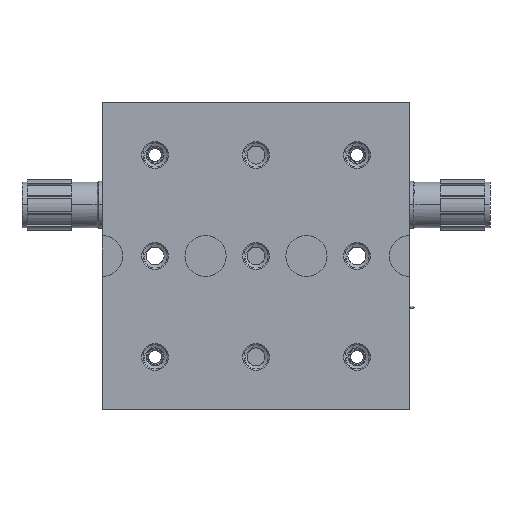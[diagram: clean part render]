
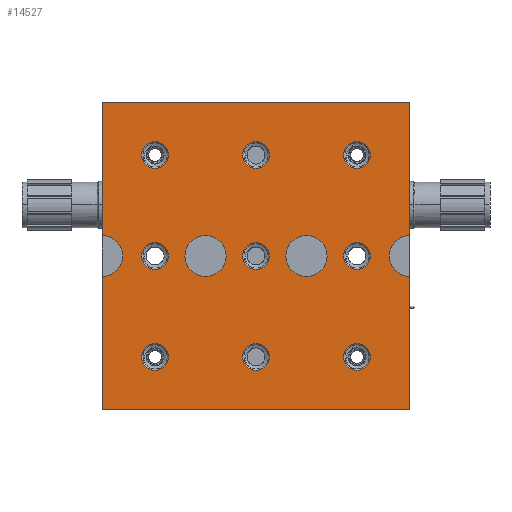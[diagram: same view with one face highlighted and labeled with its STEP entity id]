
A CAD part, front view. The second image highlights one B-rep face of the part: STEP entity #14527.
In plain terms, the highlighted planar face has unit normal (0, -1, 0).
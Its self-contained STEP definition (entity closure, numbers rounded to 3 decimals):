
#1=DIRECTION('',(0.,0.,1.));
#2=VECTOR('',#1,33.);
#3=CARTESIAN_POINT('',(-38.1,0.,5.1));
#4=LINE('',#3,#2);
#5=DIRECTION('',(1.,0.,0.));
#6=VECTOR('',#5,76.2);
#7=CARTESIAN_POINT('',(-38.1,0.,38.1));
#8=LINE('',#7,#6);
#9=DIRECTION('',(0.,0.,-1.));
#10=VECTOR('',#9,33.);
#11=CARTESIAN_POINT('',(38.1,0.,38.1));
#12=LINE('',#11,#10);
#13=DIRECTION('',(0.,0.,-1.));
#14=VECTOR('',#13,33.);
#15=CARTESIAN_POINT('',(38.1,0.,-5.1));
#16=LINE('',#15,#14);
#17=DIRECTION('',(-1.,0.,0.));
#18=VECTOR('',#17,76.2);
#19=CARTESIAN_POINT('',(38.1,0.,-38.1));
#20=LINE('',#19,#18);
#21=DIRECTION('',(0.,0.,1.));
#22=VECTOR('',#21,33.);
#23=CARTESIAN_POINT('',(-38.1,0.,-38.1));
#24=LINE('',#23,#22);
#25=CARTESIAN_POINT('',(-12.5,0.,0.));
#26=DIRECTION('',(0.,1.,0.));
#27=DIRECTION('',(1.,0.,0.));
#28=AXIS2_PLACEMENT_3D('',#25,#26,#27);
#30=CARTESIAN_POINT('',(-12.5,0.,0.));
#31=DIRECTION('',(0.,1.,0.));
#32=DIRECTION('',(-1.,0.,0.));
#33=AXIS2_PLACEMENT_3D('',#30,#31,#32);
#35=CARTESIAN_POINT('',(12.5,0.,0.));
#36=DIRECTION('',(0.,1.,0.));
#37=DIRECTION('',(1.,0.,0.));
#38=AXIS2_PLACEMENT_3D('',#35,#36,#37);
#40=CARTESIAN_POINT('',(12.5,0.,0.));
#41=DIRECTION('',(0.,1.,0.));
#42=DIRECTION('',(-1.,0.,0.));
#43=AXIS2_PLACEMENT_3D('',#40,#41,#42);
#45=CARTESIAN_POINT('',(-25.,0.,-25.));
#46=DIRECTION('',(0.,1.,0.));
#47=DIRECTION('',(-1.,0.,0.));
#48=AXIS2_PLACEMENT_3D('',#45,#46,#47);
#50=CARTESIAN_POINT('',(-25.,0.,-25.));
#51=DIRECTION('',(0.,1.,0.));
#52=DIRECTION('',(1.,0.,0.));
#53=AXIS2_PLACEMENT_3D('',#50,#51,#52);
#55=CARTESIAN_POINT('',(-25.,0.,0.));
#56=DIRECTION('',(0.,1.,0.));
#57=DIRECTION('',(1.,0.,0.));
#58=AXIS2_PLACEMENT_3D('',#55,#56,#57);
#60=CARTESIAN_POINT('',(-25.,0.,0.));
#61=DIRECTION('',(0.,1.,0.));
#62=DIRECTION('',(-1.,0.,0.));
#63=AXIS2_PLACEMENT_3D('',#60,#61,#62);
#65=CARTESIAN_POINT('',(-25.,0.,25.));
#66=DIRECTION('',(0.,1.,0.));
#67=DIRECTION('',(1.,0.,0.));
#68=AXIS2_PLACEMENT_3D('',#65,#66,#67);
#70=CARTESIAN_POINT('',(-25.,0.,25.));
#71=DIRECTION('',(0.,1.,0.));
#72=DIRECTION('',(-1.,0.,0.));
#73=AXIS2_PLACEMENT_3D('',#70,#71,#72);
#75=CARTESIAN_POINT('',(0.,0.,25.));
#76=DIRECTION('',(0.,1.,0.));
#77=DIRECTION('',(1.,0.,0.));
#78=AXIS2_PLACEMENT_3D('',#75,#76,#77);
#80=CARTESIAN_POINT('',(0.,0.,25.));
#81=DIRECTION('',(0.,1.,0.));
#82=DIRECTION('',(-1.,0.,0.));
#83=AXIS2_PLACEMENT_3D('',#80,#81,#82);
#85=CARTESIAN_POINT('',(25.,0.,25.));
#86=DIRECTION('',(0.,1.,0.));
#87=DIRECTION('',(1.,0.,0.));
#88=AXIS2_PLACEMENT_3D('',#85,#86,#87);
#90=CARTESIAN_POINT('',(25.,0.,25.));
#91=DIRECTION('',(0.,1.,0.));
#92=DIRECTION('',(-1.,0.,0.));
#93=AXIS2_PLACEMENT_3D('',#90,#91,#92);
#95=CARTESIAN_POINT('',(25.,0.,0.));
#96=DIRECTION('',(0.,1.,0.));
#97=DIRECTION('',(1.,0.,0.));
#98=AXIS2_PLACEMENT_3D('',#95,#96,#97);
#100=CARTESIAN_POINT('',(25.,0.,0.));
#101=DIRECTION('',(0.,1.,0.));
#102=DIRECTION('',(-1.,0.,0.));
#103=AXIS2_PLACEMENT_3D('',#100,#101,#102);
#105=CARTESIAN_POINT('',(25.,0.,-25.));
#106=DIRECTION('',(0.,1.,0.));
#107=DIRECTION('',(1.,0.,0.));
#108=AXIS2_PLACEMENT_3D('',#105,#106,#107);
#110=CARTESIAN_POINT('',(25.,0.,-25.));
#111=DIRECTION('',(0.,1.,0.));
#112=DIRECTION('',(-1.,0.,0.));
#113=AXIS2_PLACEMENT_3D('',#110,#111,#112);
#115=CARTESIAN_POINT('',(0.,0.,-25.));
#116=DIRECTION('',(0.,1.,0.));
#117=DIRECTION('',(1.,0.,0.));
#118=AXIS2_PLACEMENT_3D('',#115,#116,#117);
#120=CARTESIAN_POINT('',(0.,0.,-25.));
#121=DIRECTION('',(0.,1.,0.));
#122=DIRECTION('',(-1.,0.,0.));
#123=AXIS2_PLACEMENT_3D('',#120,#121,#122);
#125=CARTESIAN_POINT('',(0.,0.,0.));
#126=DIRECTION('',(0.,1.,0.));
#127=DIRECTION('',(1.,0.,0.));
#128=AXIS2_PLACEMENT_3D('',#125,#126,#127);
#130=CARTESIAN_POINT('',(0.,0.,0.));
#131=DIRECTION('',(0.,1.,0.));
#132=DIRECTION('',(-1.,0.,0.));
#133=AXIS2_PLACEMENT_3D('',#130,#131,#132);
#140=CARTESIAN_POINT('',(-38.1,0.,0.));
#141=DIRECTION('',(0.,1.,0.));
#142=DIRECTION('',(0.,0.,1.));
#143=AXIS2_PLACEMENT_3D('',#140,#141,#142);
#4964=CARTESIAN_POINT('',(38.1,0.,0.));
#4965=DIRECTION('',(0.,1.,0.));
#4966=DIRECTION('',(0.,0.,-1.));
#4967=AXIS2_PLACEMENT_3D('',#4964,#4965,#4966);
#13282=CARTESIAN_POINT('',(-38.1,0.,38.1));
#13283=CARTESIAN_POINT('',(38.1,0.,38.1));
#13284=VERTEX_POINT('',#13282);
#13285=VERTEX_POINT('',#13283);
#13286=CARTESIAN_POINT('',(38.1,0.,-38.1));
#13287=CARTESIAN_POINT('',(-38.1,0.,-38.1));
#13288=VERTEX_POINT('',#13286);
#13289=VERTEX_POINT('',#13287);
#13366=CARTESIAN_POINT('',(-38.1,0.,-5.1));
#13367=VERTEX_POINT('',#13366);
#13368=CARTESIAN_POINT('',(-38.1,0.,5.1));
#13369=VERTEX_POINT('',#13368);
#13370=CARTESIAN_POINT('',(38.1,0.,5.1));
#13371=VERTEX_POINT('',#13370);
#13372=CARTESIAN_POINT('',(38.1,0.,-5.1));
#13373=VERTEX_POINT('',#13372);
#13374=CARTESIAN_POINT('',(-7.4,0.,0.));
#13375=CARTESIAN_POINT('',(-17.6,0.,0.));
#13376=VERTEX_POINT('',#13374);
#13377=VERTEX_POINT('',#13375);
#13378=CARTESIAN_POINT('',(17.6,0.,0.));
#13379=CARTESIAN_POINT('',(7.4,0.,0.));
#13380=VERTEX_POINT('',#13378);
#13381=VERTEX_POINT('',#13379);
#13985=CARTESIAN_POINT('',(-28.3,0.,-25.));
#13986=CARTESIAN_POINT('',(-21.7,0.,-25.));
#13987=VERTEX_POINT('',#13985);
#13988=VERTEX_POINT('',#13986);
#13993=CARTESIAN_POINT('',(-21.7,0.,0.));
#13994=CARTESIAN_POINT('',(-28.3,0.,0.));
#13995=VERTEX_POINT('',#13993);
#13996=VERTEX_POINT('',#13994);
#14001=CARTESIAN_POINT('',(-21.7,0.,25.));
#14002=CARTESIAN_POINT('',(-28.3,0.,25.));
#14003=VERTEX_POINT('',#14001);
#14004=VERTEX_POINT('',#14002);
#14009=CARTESIAN_POINT('',(3.3,0.,25.));
#14010=CARTESIAN_POINT('',(-3.3,0.,25.));
#14011=VERTEX_POINT('',#14009);
#14012=VERTEX_POINT('',#14010);
#14017=CARTESIAN_POINT('',(28.3,0.,25.));
#14018=CARTESIAN_POINT('',(21.7,0.,25.));
#14019=VERTEX_POINT('',#14017);
#14020=VERTEX_POINT('',#14018);
#14025=CARTESIAN_POINT('',(28.3,0.,0.));
#14026=CARTESIAN_POINT('',(21.7,0.,0.));
#14027=VERTEX_POINT('',#14025);
#14028=VERTEX_POINT('',#14026);
#14033=CARTESIAN_POINT('',(28.3,0.,-25.));
#14034=CARTESIAN_POINT('',(21.7,0.,-25.));
#14035=VERTEX_POINT('',#14033);
#14036=VERTEX_POINT('',#14034);
#14041=CARTESIAN_POINT('',(3.3,0.,-25.));
#14042=CARTESIAN_POINT('',(-3.3,0.,-25.));
#14043=VERTEX_POINT('',#14041);
#14044=VERTEX_POINT('',#14042);
#14049=CARTESIAN_POINT('',(3.3,0.,0.));
#14050=CARTESIAN_POINT('',(-3.3,0.,0.));
#14051=VERTEX_POINT('',#14049);
#14052=VERTEX_POINT('',#14050);
#14438=CARTESIAN_POINT('',(0.,0.,0.));
#14439=DIRECTION('',(0.,1.,0.));
#14440=DIRECTION('',(1.,0.,0.));
#14441=AXIS2_PLACEMENT_3D('',#14438,#14439,#14440);
#14442=PLANE('',#14441);
#14444=ORIENTED_EDGE('',*,*,#14443,.F.);
#14446=ORIENTED_EDGE('',*,*,#14445,.T.);
#14448=ORIENTED_EDGE('',*,*,#14447,.T.);
#14450=ORIENTED_EDGE('',*,*,#14449,.T.);
#14452=ORIENTED_EDGE('',*,*,#14451,.F.);
#14454=ORIENTED_EDGE('',*,*,#14453,.T.);
#14456=ORIENTED_EDGE('',*,*,#14455,.T.);
#14458=ORIENTED_EDGE('',*,*,#14457,.T.);
#14459=EDGE_LOOP('',(#14444,#14446,#14448,#14450,#14452,#14454,#14456,#14458));
#14460=FACE_OUTER_BOUND('',#14459,.F.);
#14462=ORIENTED_EDGE('',*,*,#14461,.F.);
#14464=ORIENTED_EDGE('',*,*,#14463,.F.);
#14465=EDGE_LOOP('',(#14462,#14464));
#14466=FACE_BOUND('',#14465,.F.);
#14468=ORIENTED_EDGE('',*,*,#14467,.F.);
#14470=ORIENTED_EDGE('',*,*,#14469,.F.);
#14471=EDGE_LOOP('',(#14468,#14470));
#14472=FACE_BOUND('',#14471,.F.);
#14474=ORIENTED_EDGE('',*,*,#14473,.F.);
#14476=ORIENTED_EDGE('',*,*,#14475,.F.);
#14477=EDGE_LOOP('',(#14474,#14476));
#14478=FACE_BOUND('',#14477,.F.);
#14480=ORIENTED_EDGE('',*,*,#14479,.F.);
#14482=ORIENTED_EDGE('',*,*,#14481,.F.);
#14483=EDGE_LOOP('',(#14480,#14482));
#14484=FACE_BOUND('',#14483,.F.);
#14486=ORIENTED_EDGE('',*,*,#14485,.F.);
#14488=ORIENTED_EDGE('',*,*,#14487,.F.);
#14489=EDGE_LOOP('',(#14486,#14488));
#14490=FACE_BOUND('',#14489,.F.);
#14492=ORIENTED_EDGE('',*,*,#14491,.F.);
#14494=ORIENTED_EDGE('',*,*,#14493,.F.);
#14495=EDGE_LOOP('',(#14492,#14494));
#14496=FACE_BOUND('',#14495,.F.);
#14498=ORIENTED_EDGE('',*,*,#14497,.F.);
#14500=ORIENTED_EDGE('',*,*,#14499,.F.);
#14501=EDGE_LOOP('',(#14498,#14500));
#14502=FACE_BOUND('',#14501,.F.);
#14504=ORIENTED_EDGE('',*,*,#14503,.F.);
#14506=ORIENTED_EDGE('',*,*,#14505,.F.);
#14507=EDGE_LOOP('',(#14504,#14506));
#14508=FACE_BOUND('',#14507,.F.);
#14510=ORIENTED_EDGE('',*,*,#14509,.F.);
#14512=ORIENTED_EDGE('',*,*,#14511,.F.);
#14513=EDGE_LOOP('',(#14510,#14512));
#14514=FACE_BOUND('',#14513,.F.);
#14516=ORIENTED_EDGE('',*,*,#14515,.F.);
#14518=ORIENTED_EDGE('',*,*,#14517,.F.);
#14519=EDGE_LOOP('',(#14516,#14518));
#14520=FACE_BOUND('',#14519,.F.);
#14522=ORIENTED_EDGE('',*,*,#14521,.F.);
#14524=ORIENTED_EDGE('',*,*,#14523,.F.);
#14525=EDGE_LOOP('',(#14522,#14524));
#14526=FACE_BOUND('',#14525,.F.);
#14527=ADVANCED_FACE('',(#14460,#14466,#14472,#14478,#14484,#14490,#14496,
#14502,#14508,#14514,#14520,#14526),#14442,.F.);
#29=CIRCLE('',#28,5.1);
#34=CIRCLE('',#33,5.1);
#39=CIRCLE('',#38,5.1);
#44=CIRCLE('',#43,5.1);
#49=CIRCLE('',#48,3.3);
#54=CIRCLE('',#53,3.3);
#59=CIRCLE('',#58,3.3);
#64=CIRCLE('',#63,3.3);
#69=CIRCLE('',#68,3.3);
#74=CIRCLE('',#73,3.3);
#79=CIRCLE('',#78,3.3);
#84=CIRCLE('',#83,3.3);
#89=CIRCLE('',#88,3.3);
#94=CIRCLE('',#93,3.3);
#99=CIRCLE('',#98,3.3);
#104=CIRCLE('',#103,3.3);
#109=CIRCLE('',#108,3.3);
#114=CIRCLE('',#113,3.3);
#119=CIRCLE('',#118,3.3);
#124=CIRCLE('',#123,3.3);
#129=CIRCLE('',#128,3.3);
#134=CIRCLE('',#133,3.3);
#144=CIRCLE('',#143,5.1);
#4968=CIRCLE('',#4967,5.1);
#14443=EDGE_CURVE('',#13369,#13367,#144,.T.);
#14445=EDGE_CURVE('',#13369,#13284,#4,.T.);
#14447=EDGE_CURVE('',#13284,#13285,#8,.T.);
#14449=EDGE_CURVE('',#13285,#13371,#12,.T.);
#14451=EDGE_CURVE('',#13373,#13371,#4968,.T.);
#14453=EDGE_CURVE('',#13373,#13288,#16,.T.);
#14455=EDGE_CURVE('',#13288,#13289,#20,.T.);
#14457=EDGE_CURVE('',#13289,#13367,#24,.T.);
#14461=EDGE_CURVE('',#13376,#13377,#29,.T.);
#14463=EDGE_CURVE('',#13377,#13376,#34,.T.);
#14467=EDGE_CURVE('',#13380,#13381,#39,.T.);
#14469=EDGE_CURVE('',#13381,#13380,#44,.T.);
#14473=EDGE_CURVE('',#13987,#13988,#49,.T.);
#14475=EDGE_CURVE('',#13988,#13987,#54,.T.);
#14479=EDGE_CURVE('',#13995,#13996,#59,.T.);
#14481=EDGE_CURVE('',#13996,#13995,#64,.T.);
#14485=EDGE_CURVE('',#14003,#14004,#69,.T.);
#14487=EDGE_CURVE('',#14004,#14003,#74,.T.);
#14491=EDGE_CURVE('',#14011,#14012,#79,.T.);
#14493=EDGE_CURVE('',#14012,#14011,#84,.T.);
#14497=EDGE_CURVE('',#14019,#14020,#89,.T.);
#14499=EDGE_CURVE('',#14020,#14019,#94,.T.);
#14503=EDGE_CURVE('',#14027,#14028,#99,.T.);
#14505=EDGE_CURVE('',#14028,#14027,#104,.T.);
#14509=EDGE_CURVE('',#14035,#14036,#109,.T.);
#14511=EDGE_CURVE('',#14036,#14035,#114,.T.);
#14515=EDGE_CURVE('',#14043,#14044,#119,.T.);
#14517=EDGE_CURVE('',#14044,#14043,#124,.T.);
#14521=EDGE_CURVE('',#14051,#14052,#129,.T.);
#14523=EDGE_CURVE('',#14052,#14051,#134,.T.);
